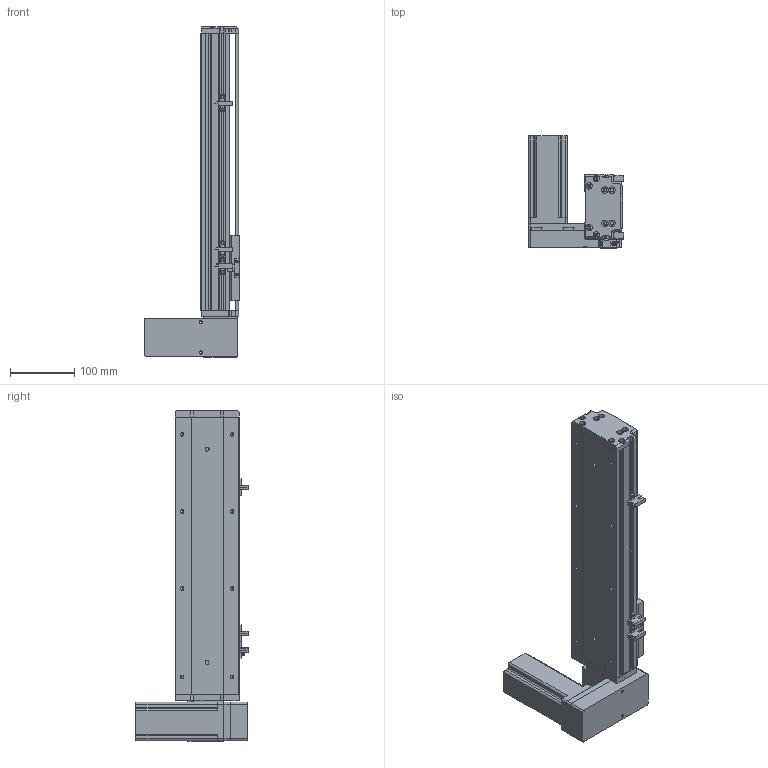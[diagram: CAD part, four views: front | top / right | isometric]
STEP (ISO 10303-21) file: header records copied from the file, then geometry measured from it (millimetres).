
FILE_DESCRIPTION (( 'STEP AP214' ), '1' );
FILE_NAME ('KSD100B-S250-MRD-CM.STEP', '2019-11-11T07:38:49', ( '微软用户' ), ( '微软中国' ), 'SwSTEP 2.0', 'SolidWorks 2014', '' );
FILE_SCHEMA (( 'AUTOMOTIVE_DESIGN' ));
Length unit declared in the file: millimetre
Products named in the file (12): 悵誘欶奻狟殏; 100宽马达安装板连板上下折丝杆同步带; 台达ECMA－C20604AS伺服电机; U倰嫖萇EEㄜSX672; 覜茼え100遵圉猾敕; 100宽防尘板250行程-同步带; 100宽马达安装板同步带右; 100宽同步带安装板半封闭; 100宽马达安装板同步带; 100遵傷啣肮祭湍; 100宽底板半封闭同步带250行程; KSD100B-S250-MRD-CM
Assembly tree (13 placements, depth 2):
  KSD100B-S250-MRD-CM
    100宽底板半封闭同步带250行程
    100遵傷啣肮祭湍
    100宽马达安装板同步带
    100宽同步带安装板半封闭
    100宽马达安装板同步带右
    100宽防尘板250行程-同步带
    覜茼え100遵圉猾敕
    U倰嫖萇EEㄜSX672  x3
    台达ECMA－C20604AS伺服电机
    100宽马达安装板连板上下折丝杆同步带
    悵誘欶奻狟殏
Bounding box: 148 x 174.7 x 515 mm (x, y, z)
Volume: 1579954.7 mm3; surface area: 481263.4 mm2
Topology: 14 solids, 14 shells, 1257 faces, 3500 edges, 2257 vertices
Faces by surface type: cylinder 603, plane 567, cone 87
Entity records: 42793 total; most frequent: CARTESIAN_POINT 7514, DIRECTION 6012, ORIENTED_EDGE 5732, EDGE_CURVE 2866, AXIS2_PLACEMENT_3D 2173, VERTEX_POINT 1881, VECTOR 1666, LINE 1666
